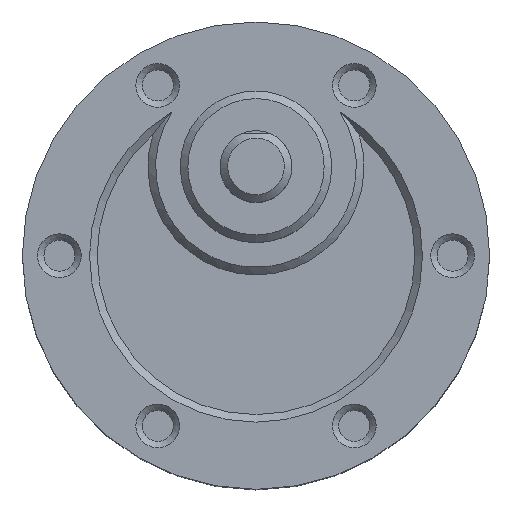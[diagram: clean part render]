
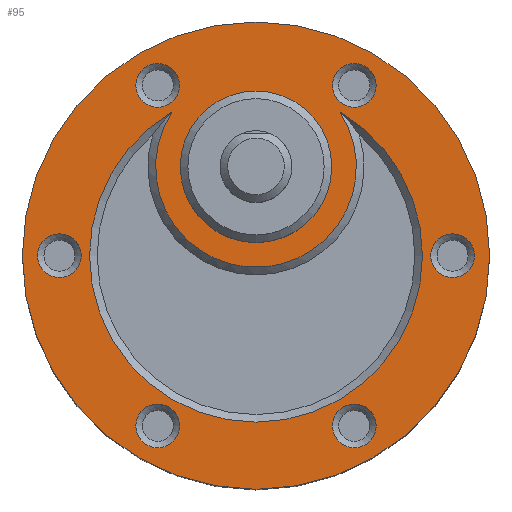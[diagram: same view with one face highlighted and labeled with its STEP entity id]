
A CAD part, top view. The second image highlights one B-rep face of the part: STEP entity #95.
In plain terms, the highlighted planar face has unit normal (0, 0, 1).
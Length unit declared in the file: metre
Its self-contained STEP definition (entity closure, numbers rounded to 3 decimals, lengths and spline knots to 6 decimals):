
#95 = ADVANCED_FACE( '', ( #237, #238, #239, #240, #241, #242, #243, #244, #245 ), #246, .T. );
#237 = FACE_BOUND( '', #458, .T. );
#238 = FACE_BOUND( '', #459, .T. );
#239 = FACE_BOUND( '', #460, .T. );
#240 = FACE_BOUND( '', #461, .T. );
#241 = FACE_BOUND( '', #462, .T. );
#242 = FACE_BOUND( '', #463, .T. );
#243 = FACE_BOUND( '', #464, .T. );
#244 = FACE_BOUND( '', #465, .T. );
#245 = FACE_OUTER_BOUND( '', #466, .T. );
#246 = PLANE( '', #467 );
#458 = EDGE_LOOP( '', ( #698 ) );
#459 = EDGE_LOOP( '', ( #699 ) );
#460 = EDGE_LOOP( '', ( #700 ) );
#461 = EDGE_LOOP( '', ( #701 ) );
#462 = EDGE_LOOP( '', ( #702 ) );
#463 = EDGE_LOOP( '', ( #703 ) );
#464 = EDGE_LOOP( '', ( #704, #705 ) );
#465 = EDGE_LOOP( '', ( #706 ) );
#466 = EDGE_LOOP( '', ( #707 ) );
#467 = AXIS2_PLACEMENT_3D( '', #708, #709, #710 );
#698 = ORIENTED_EDGE( '', *, *, #1076, .T. );
#699 = ORIENTED_EDGE( '', *, *, #1077, .T. );
#700 = ORIENTED_EDGE( '', *, *, #1078, .T. );
#701 = ORIENTED_EDGE( '', *, *, #1079, .T. );
#702 = ORIENTED_EDGE( '', *, *, #1080, .T. );
#703 = ORIENTED_EDGE( '', *, *, #1081, .T. );
#704 = ORIENTED_EDGE( '', *, *, #1074, .T. );
#705 = ORIENTED_EDGE( '', *, *, #1082, .T. );
#706 = ORIENTED_EDGE( '', *, *, #1049, .F. );
#707 = ORIENTED_EDGE( '', *, *, #1083, .T. );
#708 = CARTESIAN_POINT( '', ( 0., 0., 0.0695 ) );
#709 = DIRECTION( '', ( 0., 0., 1. ) );
#710 = DIRECTION( '', ( 1., 0., 0. ) );
#1049 = EDGE_CURVE( '', #1193, #1193, #1194, .T. );
#1074 = EDGE_CURVE( '', #1232, #1236, #1238, .F. );
#1076 = EDGE_CURVE( '', #1240, #1240, #1241, .F. );
#1077 = EDGE_CURVE( '', #1242, #1242, #1243, .F. );
#1078 = EDGE_CURVE( '', #1244, #1244, #1245, .F. );
#1079 = EDGE_CURVE( '', #1246, #1246, #1247, .F. );
#1080 = EDGE_CURVE( '', #1248, #1248, #1249, .F. );
#1081 = EDGE_CURVE( '', #1250, #1250, #1251, .F. );
#1082 = EDGE_CURVE( '', #1236, #1232, #1252, .T. );
#1083 = EDGE_CURVE( '', #1253, #1253, #1254, .T. );
#1193 = VERTEX_POINT( '', #1406 );
#1194 = CIRCLE( '', #1407, 0.005975 );
#1232 = VERTEX_POINT( '', #1463 );
#1236 = VERTEX_POINT( '', #1470 );
#1238 = CIRCLE( '', #1475, 0.013125 );
#1240 = VERTEX_POINT( '', #1477 );
#1241 = CIRCLE( '', #1478, 0.001725 );
#1242 = VERTEX_POINT( '', #1479 );
#1243 = CIRCLE( '', #1480, 0.001725 );
#1244 = VERTEX_POINT( '', #1481 );
#1245 = CIRCLE( '', #1482, 0.001725 );
#1246 = VERTEX_POINT( '', #1483 );
#1247 = CIRCLE( '', #1484, 0.001725 );
#1248 = VERTEX_POINT( '', #1485 );
#1249 = CIRCLE( '', #1486, 0.001725 );
#1250 = VERTEX_POINT( '', #1487 );
#1251 = CIRCLE( '', #1488, 0.001725 );
#1252 = CIRCLE( '', #1489, 0.007916 );
#1253 = VERTEX_POINT( '', #1490 );
#1254 = CIRCLE( '', #1491, 0.018425 );
#1406 = CARTESIAN_POINT( '', ( 0.005975, 0.007, 0.0695 ) );
#1407 = AXIS2_PLACEMENT_3D( '', #1673, #1674, #1675 );
#1463 = CARTESIAN_POINT( '', ( 0.006628, 0.011329, 0.0695 ) );
#1470 = CARTESIAN_POINT( '', ( -0.006628, 0.011329, 0.0695 ) );
#1475 = AXIS2_PLACEMENT_3D( '', #1703, #1704, #1705 );
#1477 = CARTESIAN_POINT( '', ( -0.013775, 0., 0.0695 ) );
#1478 = AXIS2_PLACEMENT_3D( '', #1706, #1707, #1708 );
#1479 = CARTESIAN_POINT( '', ( -0.006025, -0.013423, 0.0695 ) );
#1480 = AXIS2_PLACEMENT_3D( '', #1709, #1710, #1711 );
#1481 = CARTESIAN_POINT( '', ( 0.009475, -0.013423, 0.0695 ) );
#1482 = AXIS2_PLACEMENT_3D( '', #1712, #1713, #1714 );
#1483 = CARTESIAN_POINT( '', ( 0.017225, 0., 0.0695 ) );
#1484 = AXIS2_PLACEMENT_3D( '', #1715, #1716, #1717 );
#1485 = CARTESIAN_POINT( '', ( 0.009475, 0.013423, 0.0695 ) );
#1486 = AXIS2_PLACEMENT_3D( '', #1718, #1719, #1720 );
#1487 = CARTESIAN_POINT( '', ( -0.006025, 0.013423, 0.0695 ) );
#1488 = AXIS2_PLACEMENT_3D( '', #1721, #1722, #1723 );
#1489 = AXIS2_PLACEMENT_3D( '', #1724, #1725, #1726 );
#1490 = CARTESIAN_POINT( '', ( 0.018425, 0., 0.0695 ) );
#1491 = AXIS2_PLACEMENT_3D( '', #1727, #1728, #1729 );
#1673 = CARTESIAN_POINT( '', ( 0., 0.007, 0.0695 ) );
#1674 = DIRECTION( '', ( 0., 0., 1. ) );
#1675 = DIRECTION( '', ( 1., 0., 0. ) );
#1703 = CARTESIAN_POINT( '', ( 0., 0., 0.0695 ) );
#1704 = DIRECTION( '', ( 0., 0., 1. ) );
#1705 = DIRECTION( '', ( 1., 0., 0. ) );
#1706 = CARTESIAN_POINT( '', ( -0.0155, 0., 0.0695 ) );
#1707 = DIRECTION( '', ( 0., 0., 1. ) );
#1708 = DIRECTION( '', ( 1., 0., 0. ) );
#1709 = CARTESIAN_POINT( '', ( -0.00775, -0.013423, 0.0695 ) );
#1710 = DIRECTION( '', ( 0., 0., 1. ) );
#1711 = DIRECTION( '', ( 1., 0., 0. ) );
#1712 = CARTESIAN_POINT( '', ( 0.00775, -0.013423, 0.0695 ) );
#1713 = DIRECTION( '', ( 0., 0., 1. ) );
#1714 = DIRECTION( '', ( 1., 0., 0. ) );
#1715 = CARTESIAN_POINT( '', ( 0.0155, 0., 0.0695 ) );
#1716 = DIRECTION( '', ( 0., 0., 1. ) );
#1717 = DIRECTION( '', ( 1., 0., 0. ) );
#1718 = CARTESIAN_POINT( '', ( 0.00775, 0.013423, 0.0695 ) );
#1719 = DIRECTION( '', ( 0., 0., 1. ) );
#1720 = DIRECTION( '', ( 1., 0., 0. ) );
#1721 = CARTESIAN_POINT( '', ( -0.00775, 0.013423, 0.0695 ) );
#1722 = DIRECTION( '', ( 0., 0., 1. ) );
#1723 = DIRECTION( '', ( 1., 0., 0. ) );
#1724 = CARTESIAN_POINT( '', ( 0., 0.007, 0.0695 ) );
#1725 = DIRECTION( '', ( 0., 0., 1. ) );
#1726 = DIRECTION( '', ( 1., 0., 0. ) );
#1727 = CARTESIAN_POINT( '', ( 0., 0., 0.0695 ) );
#1728 = DIRECTION( '', ( 0., 0., 1. ) );
#1729 = DIRECTION( '', ( 1., 0., 0. ) );
